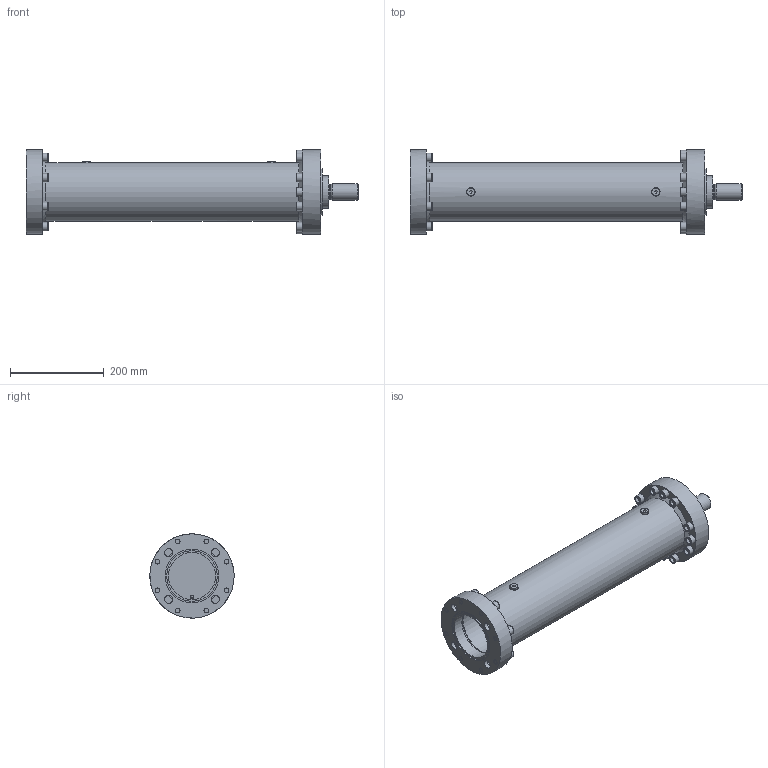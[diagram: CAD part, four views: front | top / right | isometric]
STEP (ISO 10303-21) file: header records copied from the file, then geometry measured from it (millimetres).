
FILE_DESCRIPTION((''),'2;1');
FILE_NAME('Open CASCADE Shape Model','2020-05-13T09:00:25',('cad'),(''), 'Open CASCADE STEP processor 7.3','Autodesk Inventor 2013','Unknown');
FILE_SCHEMA(('AUTOMOTIVE_DESIGN_CC2 { 1 2 10303 214 -1 1 5 4 }'));
Length unit declared in the file: millimetre
Products named in the file (1): LC.3..
Bounding box: 709 x 180 x 180 mm (x, y, z)
Volume: 4286786.3 mm3; surface area: 630254.8 mm2
Topology: 1 solids, 26 shells, 666 faces, 1461 edges, 972 vertices
Faces by surface type: plane 355, cylinder 197, cone 64, torus 36, bspline 10, revolution 4
Full cylindrical faces by diameter (mm): 3.5 x2, 6 x8, 6.6 x6, 6.7 x6, 9.4 x6, 10 x6, 10.106 x20, 10.376 x4, 11 x6, 12 x20, 12.2 x2, 12.5 x20, 13 x20, 13.835 x4, 17 x2, 17.5 x4, 18 x22, 25 x4, 31.6 x1, 36 x1, 70 x1, 90 x1, 100 x3, 103 x1, 108 x8, 112 x2, 115 x1, 125 x1, 180 x2
Entity records: 24174 total; most frequent: CARTESIAN_POINT 5528, ORIENTED_EDGE 2862, DIRECTION 2826, EDGE_CURVE 1431, AXIS2_PLACEMENT_3D 1230, VERTEX_POINT 972, FACE_BOUND 876, EDGE_LOOP 876
